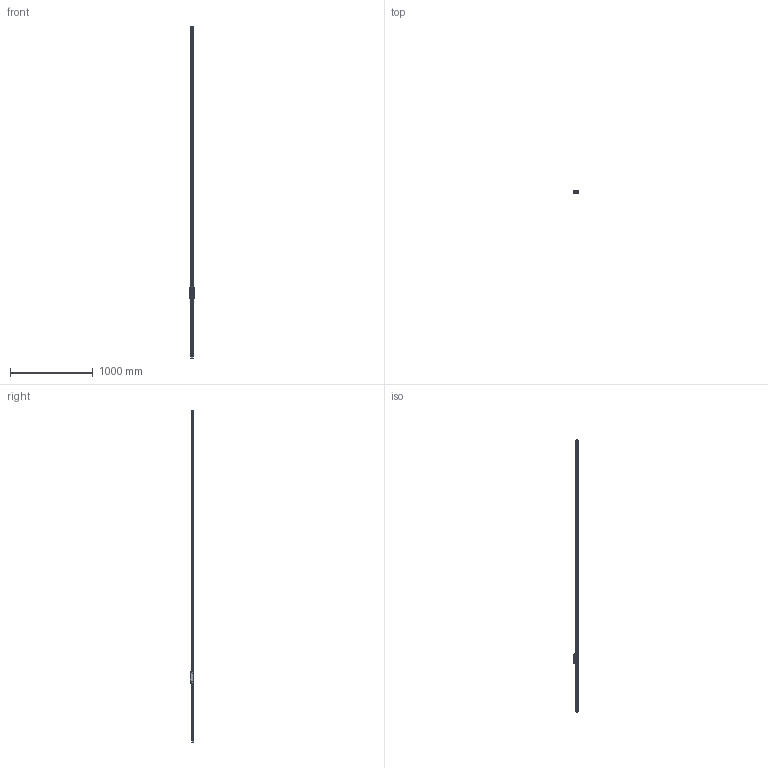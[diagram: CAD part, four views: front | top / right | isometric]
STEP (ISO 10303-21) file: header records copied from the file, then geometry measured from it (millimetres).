
FILE_DESCRIPTION (( 'STEP AP203' ), '1' );
FILE_NAME ('LCHL 30 Carriage Assembly.STEP', '2022-04-20T13:38:18', ( '' ), ( '' ), 'SwSTEP 2.0', 'SolidWorks 2013', '' );
FILE_SCHEMA (( 'CONFIG_CONTROL_DESIGN' ));
Length unit declared in the file: millimetre
Products named in the file (12): LC30 Rail Ball; LC 30 Lub Metal; LCB 30-Lub - 2; LC30 Rail; LCB 30-Wiper; LC 30 Carriage Recirculation Set; LCB 30-2; LCHL 30 Carriage Assembly; LCHL 30-1; LCHL 30 Carriage; LC 30 Carriage Recirculation Set 2; LCB 30-Lub
Assembly tree (90 placements, depth 4):
  LCHL 30 Carriage Assembly
    LC30 Rail
    LCHL 30 Carriage
      LCHL 30-1
      LC 30 Carriage Recirculation Set
        LCB 30-2
        LCB 30-Lub
        LCB 30-Lub - 2
        LC 30 Lub Metal
        LCB 30-Wiper
      LC 30 Carriage Recirculation Set 2
        LCB 30-2
        LCB 30-Lub
        LCB 30-Wiper
        LCB 30-Lub - 2
      LC30 Rail Ball  x76
Bounding box: 60 x 45 x 4000 mm (x, y, z)
Volume: 2545492 mm3; surface area: 564870.1 mm2
Topology: 87 solids, 87 shells, 1437 faces, 4195 edges, 2806 vertices
Faces by surface type: plane 636, cylinder 526, sphere 152, bspline 97, cone 14, torus 12
Entity records: 44334 total; most frequent: CARTESIAN_POINT 12809, ORIENTED_EDGE 5940, DIRECTION 5870, EDGE_CURVE 2970, AXIS2_PLACEMENT_3D 2057, VERTEX_POINT 1970, LINE 1756, VECTOR 1756
